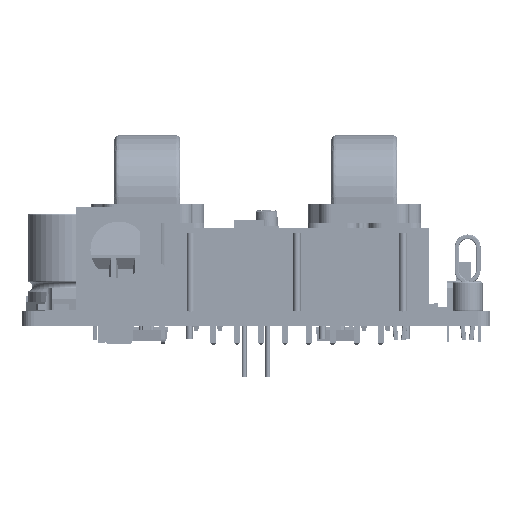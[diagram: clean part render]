
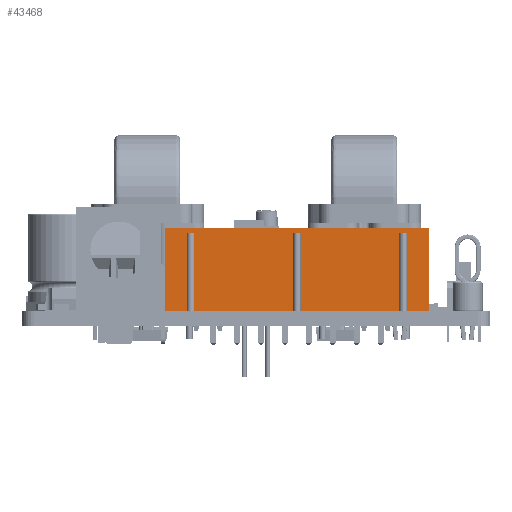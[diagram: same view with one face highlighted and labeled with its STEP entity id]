
A CAD part, left-side view. The second image highlights one B-rep face of the part: STEP entity #43468.
In plain terms, the highlighted planar face has unit normal (-1, 0, 0) as drawn and (0, 1, 0) by its records, which use the part's own axes.
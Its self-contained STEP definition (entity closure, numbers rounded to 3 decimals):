
#43431 = VERTEX_POINT('',#43432);
#43432 = CARTESIAN_POINT('',(-9.29,5.47,6.13));
#43450 = VERTEX_POINT('',#43451);
#43451 = CARTESIAN_POINT('',(-9.29,5.47,-2.27));
#43458 = EDGE_CURVE('',#43431,#43450,#43459,.T.);
#43459 = LINE('',#43460,#43461);
#43460 = CARTESIAN_POINT('',(-9.29,5.47,-2.27));
#43461 = VECTOR('',#43462,1.);
#43462 = DIRECTION('',(0.,0.,-1.));
#43468 = ADVANCED_FACE('',(#43469),#43590,.T.);
#43469 = FACE_BOUND('',#43470,.T.);
#43470 = EDGE_LOOP('',(#43471,#43472,#43480,#43488,#43496,#43504,#43512,
    #43520,#43528,#43536,#43544,#43552,#43560,#43568,#43576,#43584));
#43471 = ORIENTED_EDGE('',*,*,#43458,.T.);
#43472 = ORIENTED_EDGE('',*,*,#43473,.T.);
#43473 = EDGE_CURVE('',#43450,#43474,#43476,.T.);
#43474 = VERTEX_POINT('',#43475);
#43475 = CARTESIAN_POINT('',(-19.75,5.47,-2.27));
#43476 = LINE('',#43477,#43478);
#43477 = CARTESIAN_POINT('',(-22.85,5.47,-2.27));
#43478 = VECTOR('',#43479,1.);
#43479 = DIRECTION('',(-1.,0.,0.));
#43480 = ORIENTED_EDGE('',*,*,#43481,.T.);
#43481 = EDGE_CURVE('',#43474,#43482,#43484,.T.);
#43482 = VERTEX_POINT('',#43483);
#43483 = CARTESIAN_POINT('',(-19.75,5.47,6.13));
#43484 = LINE('',#43485,#43486);
#43485 = CARTESIAN_POINT('',(-19.75,5.47,-2.27));
#43486 = VECTOR('',#43487,1.);
#43487 = DIRECTION('',(0.,0.,1.));
#43488 = ORIENTED_EDGE('',*,*,#43489,.T.);
#43489 = EDGE_CURVE('',#43482,#43490,#43492,.T.);
#43490 = VERTEX_POINT('',#43491);
#43491 = CARTESIAN_POINT('',(-20.55,5.47,6.13));
#43492 = LINE('',#43493,#43494);
#43493 = CARTESIAN_POINT('',(-22.85,5.47,6.13));
#43494 = VECTOR('',#43495,1.);
#43495 = DIRECTION('',(-1.,0.,0.));
#43496 = ORIENTED_EDGE('',*,*,#43497,.T.);
#43497 = EDGE_CURVE('',#43490,#43498,#43500,.T.);
#43498 = VERTEX_POINT('',#43499);
#43499 = CARTESIAN_POINT('',(-20.55,5.47,-2.27));
#43500 = LINE('',#43501,#43502);
#43501 = CARTESIAN_POINT('',(-20.55,5.47,-2.27));
#43502 = VECTOR('',#43503,1.);
#43503 = DIRECTION('',(0.,0.,-1.));
#43504 = ORIENTED_EDGE('',*,*,#43505,.T.);
#43505 = EDGE_CURVE('',#43498,#43506,#43508,.T.);
#43506 = VERTEX_POINT('',#43507);
#43507 = CARTESIAN_POINT('',(-22.85,5.47,-2.27));
#43508 = LINE('',#43509,#43510);
#43509 = CARTESIAN_POINT('',(-22.85,5.47,-2.27));
#43510 = VECTOR('',#43511,1.);
#43511 = DIRECTION('',(-1.,0.,0.));
#43512 = ORIENTED_EDGE('',*,*,#43513,.T.);
#43513 = EDGE_CURVE('',#43506,#43514,#43516,.T.);
#43514 = VERTEX_POINT('',#43515);
#43515 = CARTESIAN_POINT('',(-22.85,5.47,6.63));
#43516 = LINE('',#43517,#43518);
#43517 = CARTESIAN_POINT('',(-22.85,5.47,-2.27));
#43518 = VECTOR('',#43519,1.);
#43519 = DIRECTION('',(0.,0.,1.));
#43520 = ORIENTED_EDGE('',*,*,#43521,.T.);
#43521 = EDGE_CURVE('',#43514,#43522,#43524,.T.);
#43522 = VERTEX_POINT('',#43523);
#43523 = CARTESIAN_POINT('',(5.07,5.47,6.63));
#43524 = LINE('',#43525,#43526);
#43525 = CARTESIAN_POINT('',(-22.85,5.47,6.63));
#43526 = VECTOR('',#43527,1.);
#43527 = DIRECTION('',(1.,0.,0.));
#43528 = ORIENTED_EDGE('',*,*,#43529,.T.);
#43529 = EDGE_CURVE('',#43522,#43530,#43532,.T.);
#43530 = VERTEX_POINT('',#43531);
#43531 = CARTESIAN_POINT('',(5.07,5.47,-2.27));
#43532 = LINE('',#43533,#43534);
#43533 = CARTESIAN_POINT('',(5.07,5.47,-2.27));
#43534 = VECTOR('',#43535,1.);
#43535 = DIRECTION('',(0.,0.,-1.));
#43536 = ORIENTED_EDGE('',*,*,#43537,.T.);
#43537 = EDGE_CURVE('',#43530,#43538,#43540,.T.);
#43538 = VERTEX_POINT('',#43539);
#43539 = CARTESIAN_POINT('',(2.77,5.47,-2.27));
#43540 = LINE('',#43541,#43542);
#43541 = CARTESIAN_POINT('',(-22.85,5.47,-2.27));
#43542 = VECTOR('',#43543,1.);
#43543 = DIRECTION('',(-1.,0.,0.));
#43544 = ORIENTED_EDGE('',*,*,#43545,.T.);
#43545 = EDGE_CURVE('',#43538,#43546,#43548,.T.);
#43546 = VERTEX_POINT('',#43547);
#43547 = CARTESIAN_POINT('',(2.77,5.47,6.13));
#43548 = LINE('',#43549,#43550);
#43549 = CARTESIAN_POINT('',(2.77,5.47,-2.27));
#43550 = VECTOR('',#43551,1.);
#43551 = DIRECTION('',(0.,0.,1.));
#43552 = ORIENTED_EDGE('',*,*,#43553,.T.);
#43553 = EDGE_CURVE('',#43546,#43554,#43556,.T.);
#43554 = VERTEX_POINT('',#43555);
#43555 = CARTESIAN_POINT('',(1.97,5.47,6.13));
#43556 = LINE('',#43557,#43558);
#43557 = CARTESIAN_POINT('',(-22.85,5.47,6.13));
#43558 = VECTOR('',#43559,1.);
#43559 = DIRECTION('',(-1.,0.,0.));
#43560 = ORIENTED_EDGE('',*,*,#43561,.T.);
#43561 = EDGE_CURVE('',#43554,#43562,#43564,.T.);
#43562 = VERTEX_POINT('',#43563);
#43563 = CARTESIAN_POINT('',(1.97,5.47,-2.27));
#43564 = LINE('',#43565,#43566);
#43565 = CARTESIAN_POINT('',(1.97,5.47,-2.27));
#43566 = VECTOR('',#43567,1.);
#43567 = DIRECTION('',(0.,0.,-1.));
#43568 = ORIENTED_EDGE('',*,*,#43569,.T.);
#43569 = EDGE_CURVE('',#43562,#43570,#43572,.T.);
#43570 = VERTEX_POINT('',#43571);
#43571 = CARTESIAN_POINT('',(-8.49,5.47,-2.27));
#43572 = LINE('',#43573,#43574);
#43573 = CARTESIAN_POINT('',(-22.85,5.47,-2.27));
#43574 = VECTOR('',#43575,1.);
#43575 = DIRECTION('',(-1.,0.,0.));
#43576 = ORIENTED_EDGE('',*,*,#43577,.T.);
#43577 = EDGE_CURVE('',#43570,#43578,#43580,.T.);
#43578 = VERTEX_POINT('',#43579);
#43579 = CARTESIAN_POINT('',(-8.49,5.47,6.13));
#43580 = LINE('',#43581,#43582);
#43581 = CARTESIAN_POINT('',(-8.49,5.47,-2.27));
#43582 = VECTOR('',#43583,1.);
#43583 = DIRECTION('',(0.,0.,1.));
#43584 = ORIENTED_EDGE('',*,*,#43585,.T.);
#43585 = EDGE_CURVE('',#43578,#43431,#43586,.T.);
#43586 = LINE('',#43587,#43588);
#43587 = CARTESIAN_POINT('',(-22.85,5.47,6.13));
#43588 = VECTOR('',#43589,1.);
#43589 = DIRECTION('',(-1.,0.,0.));
#43590 = PLANE('',#43591);
#43591 = AXIS2_PLACEMENT_3D('',#43592,#43593,#43594);
#43592 = CARTESIAN_POINT('',(-22.85,5.47,-2.27));
#43593 = DIRECTION('',(0.,1.,0.));
#43594 = DIRECTION('',(0.,0.,1.));
